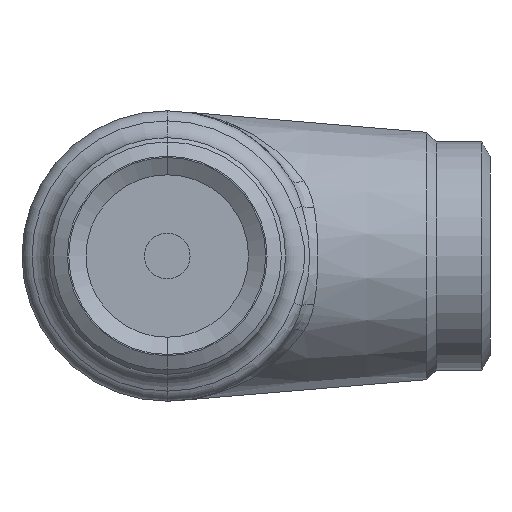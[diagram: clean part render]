
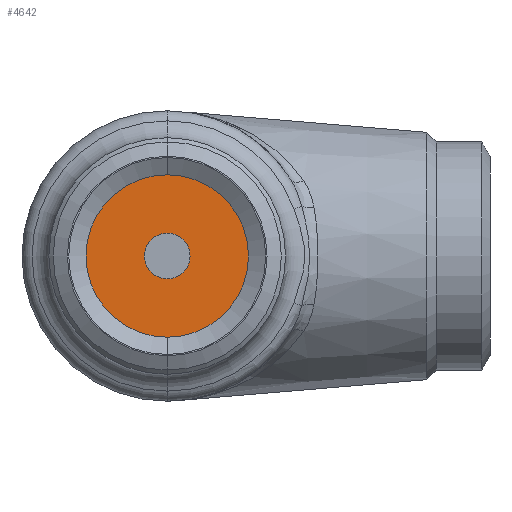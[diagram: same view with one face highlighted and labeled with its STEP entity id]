
A CAD part, front view. The second image highlights one B-rep face of the part: STEP entity #4642.
In plain terms, the highlighted planar face has unit normal (0, -1, 0).
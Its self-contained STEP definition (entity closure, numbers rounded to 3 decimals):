
#17558 = CIRCLE ( 'NONE', #17559, 4.25 ) ;
#17559 = AXIS2_PLACEMENT_3D ( 'NONE', #17560, #17561, #17562 ) ;
#17560 = CARTESIAN_POINT ( 'NONE',  ( 0., 12., 0. ) ) ;
#17561 = DIRECTION ( 'NONE',  ( 0., -1., 0. ) ) ;
#17562 = DIRECTION ( 'NONE',  ( 0., 0., -1. ) ) ;
#18244 = CARTESIAN_POINT ( 'NONE',  ( 0., 12., 17.5 ) ) ;
#2512 = VERTEX_POINT ( 'NONE', #21286 ) ;
#20006 = CIRCLE ( 'NONE', #20007, 17.5 ) ;
#20007 = AXIS2_PLACEMENT_3D ( 'NONE', #20008, #20009, #20010 ) ;
#20008 = CARTESIAN_POINT ( 'NONE',  ( 0., 12., 0. ) ) ;
#20009 = DIRECTION ( 'NONE',  ( 0., 1., 0. ) ) ;
#20010 = DIRECTION ( 'NONE',  ( 0., 0., 1. ) ) ;
#4061 = ORIENTED_EDGE ( 'NONE', *, *, #12721, .F. ) ;
#4101 = VERTEX_POINT ( 'NONE', #13321 ) ;
#4317 = EDGE_CURVE ( 'NONE', #2512, #4101, #14023, .T. ) ;
#4410 = EDGE_LOOP ( 'NONE', ( #4061, #12220 ) ) ;
#4642 = ADVANCED_FACE ( 'NONE', ( #14480, #14481 ), #14500, .F. ) ;
#21286 = CARTESIAN_POINT ( 'NONE',  ( 0., 12., 4.25 ) ) ;
#21840 = CARTESIAN_POINT ( 'NONE',  ( 0., 12., -17.5 ) ) ;
#10464 = ORIENTED_EDGE ( 'NONE', *, *, #4317, .F. ) ;
#11129 = EDGE_CURVE ( 'NONE', #4101, #2512, #17558, .T. ) ;
#11487 = ORIENTED_EDGE ( 'NONE', *, *, #11129, .F. ) ;
#11989 = EDGE_LOOP ( 'NONE', ( #11487, #10464 ) ) ;
#12136 = CIRCLE ( 'NONE', #12137, 17.5 ) ;
#12137 = AXIS2_PLACEMENT_3D ( 'NONE', #12138, #12139, #12140 ) ;
#12138 = CARTESIAN_POINT ( 'NONE',  ( 0., 12., 0. ) ) ;
#12139 = DIRECTION ( 'NONE',  ( 0., 1., 0. ) ) ;
#12140 = DIRECTION ( 'NONE',  ( 0., 0., 1. ) ) ;
#12220 = ORIENTED_EDGE ( 'NONE', *, *, #14931, .F. ) ;
#12721 = EDGE_CURVE ( 'NONE', #14723, #15793, #12136, .T. ) ;
#13321 = CARTESIAN_POINT ( 'NONE',  ( 0., 12., -4.25 ) ) ;
#14023 = CIRCLE ( 'NONE', #14024, 4.25 ) ;
#14024 = AXIS2_PLACEMENT_3D ( 'NONE', #14025, #14026, #14027 ) ;
#14025 = CARTESIAN_POINT ( 'NONE',  ( 0., 12., 0. ) ) ;
#14026 = DIRECTION ( 'NONE',  ( 0., -1., 0. ) ) ;
#14027 = DIRECTION ( 'NONE',  ( 0., 0., -1. ) ) ;
#14480 = FACE_OUTER_BOUND ( 'NONE', #4410, .T. ) ;
#14481 = FACE_BOUND ( 'NONE', #11989, .T. ) ;
#14500 = PLANE ( 'NONE',  #14501 ) ;
#14501 = AXIS2_PLACEMENT_3D ( 'NONE', #14502, #14504, #14505 ) ;
#14502 = CARTESIAN_POINT ( 'NONE',  ( 0., 12., 0. ) ) ;
#14504 = DIRECTION ( 'NONE',  ( 0., 1., 0. ) ) ;
#14505 = DIRECTION ( 'NONE',  ( 0., 0., 1. ) ) ;
#14723 = VERTEX_POINT ( 'NONE', #18244 ) ;
#14931 = EDGE_CURVE ( 'NONE', #15793, #14723, #20006, .T. ) ;
#15793 = VERTEX_POINT ( 'NONE', #21840 ) ;
